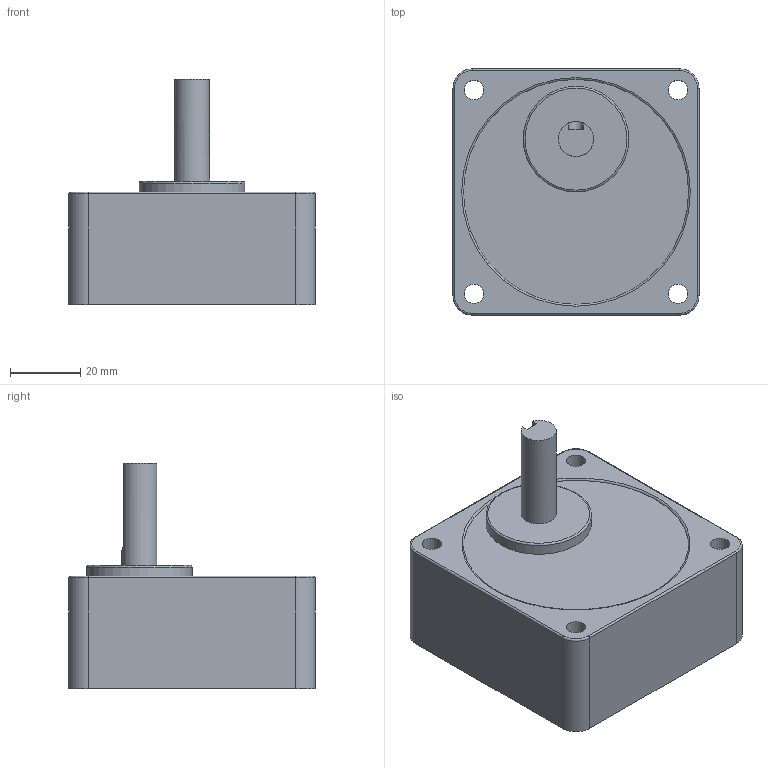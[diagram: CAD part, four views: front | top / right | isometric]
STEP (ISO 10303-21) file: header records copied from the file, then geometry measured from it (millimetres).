
FILE_DESCRIPTION((''),'2;1');
FILE_NAME('E:\2공장-도면\3D\표준형 3D(민규)\step file\감속기\K7G(3~18)B(C).stp','2014-11-13T15:43:41',('AHN'),(''),'Autodesk Inventor 2012','Autodesk Inventor 2012','');
FILE_SCHEMA(('CONFIG_CONTROL_DESIGN'));
Length unit declared in the file: millimetre
Products named in the file (1): K7G(3~18)B(C)
Bounding box: 70 x 70 x 64 mm (x, y, z)
Volume: 155828 mm3; surface area: 21735.8 mm2
Topology: 1 solids, 1 shells, 33 faces, 76 edges, 48 vertices
Faces by surface type: cylinder 15, plane 12, torus 6
Full cylindrical faces by diameter (mm): 5.5 x4, 10 x1, 30 x1
Entity records: 949 total; most frequent: DIRECTION 169, CARTESIAN_POINT 166, ORIENTED_EDGE 134, AXIS2_PLACEMENT_3D 70, EDGE_CURVE 67, EDGE_LOOP 52, VERTEX_POINT 47, CIRCLE 36
